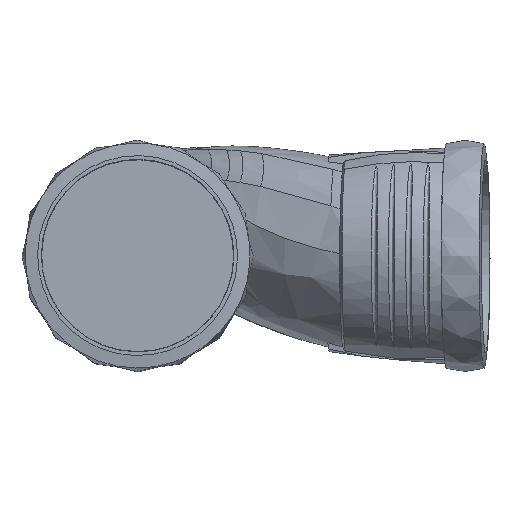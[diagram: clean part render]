
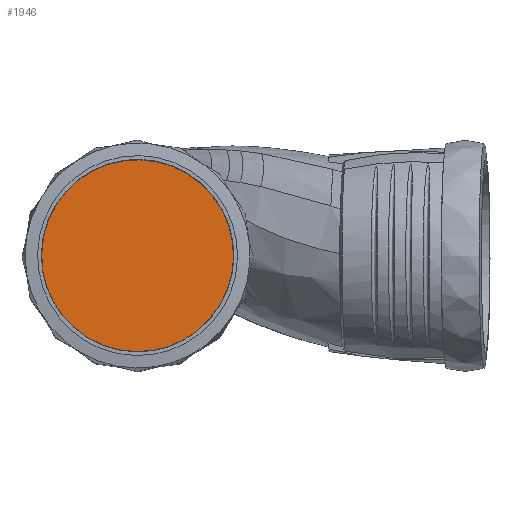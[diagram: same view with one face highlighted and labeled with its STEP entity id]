
A CAD part, top view. The second image highlights one B-rep face of the part: STEP entity #1946.
In plain terms, the highlighted planar face has unit normal (0, 0, 1).
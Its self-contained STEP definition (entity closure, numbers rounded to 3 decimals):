
#24=PLANE('',#2104);
#237=FACE_OUTER_BOUND('',#378,.T.);
#378=EDGE_LOOP('',(#1511));
#489=CIRCLE('',#2093,45.45);
#824=VERTEX_POINT('',#11214);
#1064=EDGE_CURVE('',#824,#824,#489,.T.);
#1511=ORIENTED_EDGE('',*,*,#1064,.F.);
#1946=ADVANCED_FACE('',(#237),#24,.F.);
#2093=AXIS2_PLACEMENT_3D('',#11215,#2318,#2319);
#2104=AXIS2_PLACEMENT_3D('',#14184,#2341,#2342);
#2318=DIRECTION('center_axis',(0.,0.,-1.));
#2319=DIRECTION('ref_axis',(-0.479,0.878,0.));
#2341=DIRECTION('center_axis',(0.,0.,-1.));
#2342=DIRECTION('ref_axis',(-1.,0.,0.));
#11214=CARTESIAN_POINT('',(21.79,-39.886,32.));
#11215=CARTESIAN_POINT('Origin',(0.,0.,32.));
#14184=CARTESIAN_POINT('Origin',(0.,0.,32.));
